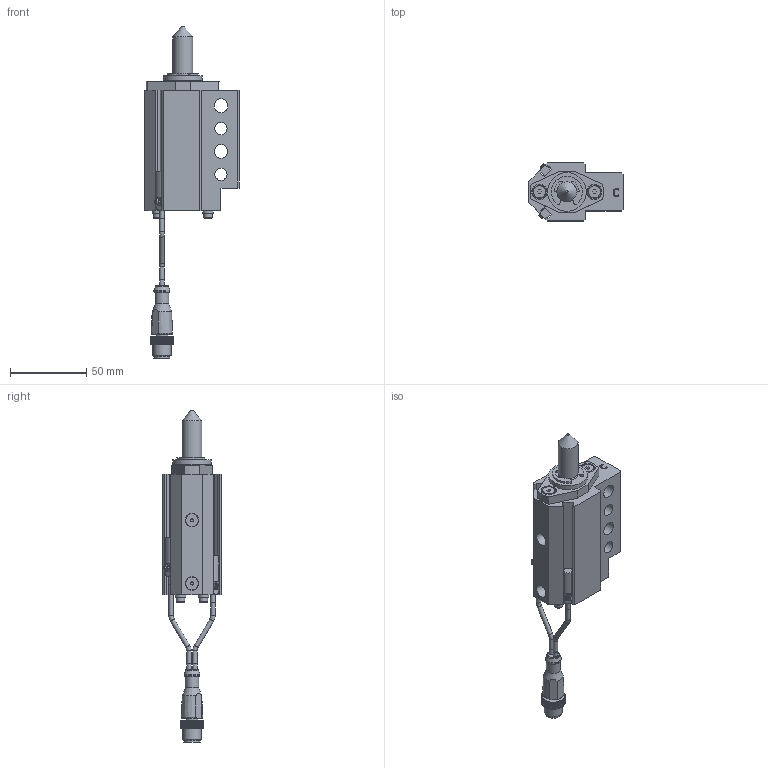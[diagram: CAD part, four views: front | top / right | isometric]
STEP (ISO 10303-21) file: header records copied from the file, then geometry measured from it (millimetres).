
FILE_DESCRIPTION(/* description */ ('NAAMS FLOATING MICRO PIN'),/* implementation_level */ '2;1');
FILE_NAME(/* name */ 'C:\Vault Workspace\CAD\Welker\Shot Pin\NMP\NMP130022ACNL3.stp',/* time_stamp */ '2021-01-27T10:57:42-05:00',/* author */ ('WELKER'),/* organization */ (''),/* preprocessor_version */ 'ST-DEVELOPER v18.1',/* originating_system */ 'Autodesk Inventor 2020',/* authorisation */ '');
FILE_SCHEMA (('AUTOMOTIVE_DESIGN { 1 0 10303 214 3 1 1 }'));
Length unit declared in the file: millimetre
Products named in the file (16): NMPL01; NMP L3 SWITCH; L3 Connector; L3 Sensor 1; L3 Sensor 2; L3 Sensor cable; L3 Sensor cable 2; M3X0.5-8 SHCS; NL3; NMPE06; NMPE03; NMPE05-DIA-LENGTH; 985432A218; NMPE01C-PORT; RMPE02; M5X5 SHOULDER
Assembly tree (22 placements, depth 3):
  NMPL01
    NMP L3 SWITCH
      L3 Connector
      L3 Sensor 1
      L3 Sensor 2
      L3 Sensor cable
      L3 Sensor cable 2
    M3X0.5-8 SHCS  x4
    NL3  x4
    NMPE06
    NMPE03
    NMPE05-DIA-LENGTH
    985432A218
    NMPE01C-PORT
    RMPE02
    M5X5 SHOULDER  x2
Bounding box: 62 x 38.1 x 217.71 mm (x, y, z)
Volume: 112649.6 mm3; surface area: 45842.7 mm2
Topology: 21 solids, 21 shells, 750 faces, 2035 edges, 1360 vertices
Faces by surface type: plane 544, cylinder 143, cone 31, bspline 18, torus 11, sphere 3
Full cylindrical faces by diameter (mm): 2 x2, 2.459 x4, 2.9 x10, 3 x5, 3.242 x2, 3.4 x4, 4 x2, 5 x6, 5.5 x4, 7 x4, 8 x2, 8.3 x2, 9 x5, 10 x3, 10.4 x1, 10.5 x1, 12 x1, 13 x3, 16 x2, 19.05 x3, 21 x1, 22.5 x1, 23.672 x1, 24 x1, 25.4 x1, 25.5 x1, 26.5 x1, 28.677 x1, 29.21 x1, 31.75 x2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
Entity records: 22996 total; most frequent: CARTESIAN_POINT 4356, ORIENTED_EDGE 3768, DIRECTION 3682, EDGE_CURVE 1884, LINE 1376, VECTOR 1376, VERTEX_POINT 1265, AXIS2_PLACEMENT_3D 1153
